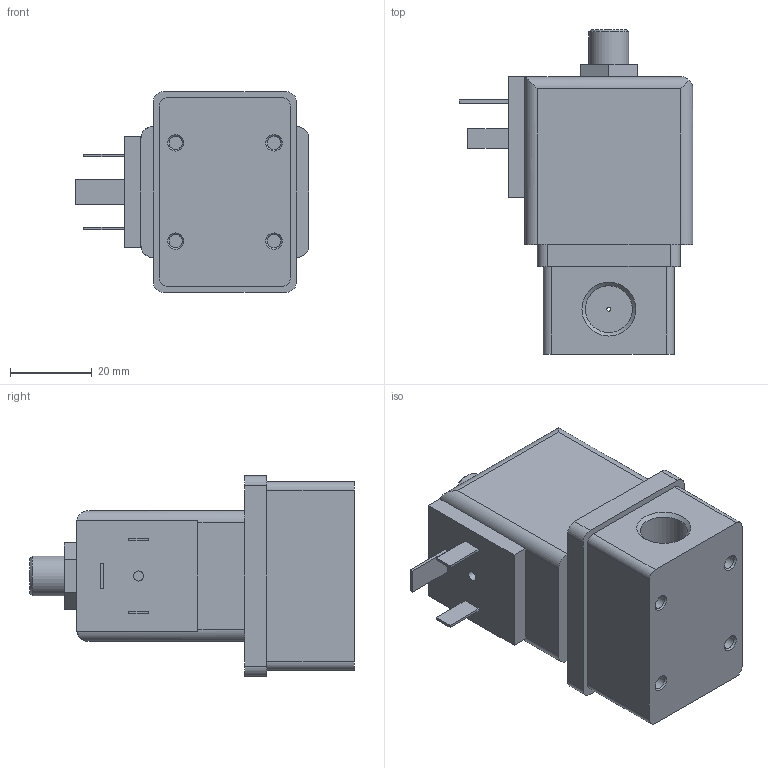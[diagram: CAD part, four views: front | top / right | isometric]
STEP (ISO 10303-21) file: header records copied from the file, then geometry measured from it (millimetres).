
FILE_DESCRIPTION(/* description */ ('STEP AP214'),/* implementation_level */ '2;1');
FILE_NAME(/* name */ '6014-126138-3_2-way_Solenoid_Valve_direct-acting',/* time_stamp */ '2024-08-12T14:25:10+02:00',/* author */ ('License CC BY-ND 4.0'),/* organization */ ('CADENAS'),/* preprocessor_version */ 'ST-DEVELOPER v19.3',/* originating_system */ 'PARTsolutions',/* authorisation */ ' ');
FILE_SCHEMA (('AUTOMOTIVE_DESIGN {1 0 10303 214 3 1 1}'));
Length unit declared in the file: millimetre
Products named in the file (1): 6014-126138-3/2-way Solenoid Valve direct-acting
Bounding box: 57.05 x 79.3 x 49 mm (x, y, z)
Volume: 94556.6 mm3; surface area: 16449.7 mm2
Topology: 1 solids, 1 shells, 86 faces, 195 edges, 124 vertices
Faces by surface type: plane 55, cylinder 24, cone 7
Full cylindrical faces by diameter (mm): 1 x1, 2.46 x1, 3.242 x4, 9.728 x1, 11.445 x2
Entity records: 2931 total; most frequent: DIRECTION 405, CARTESIAN_POINT 388, ORIENTED_EDGE 356, EDGE_CURVE 178, AXIS2_PLACEMENT_3D 140, LINE 125, VECTOR 125, VERTEX_POINT 123
